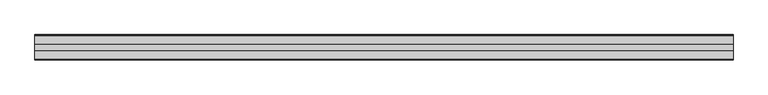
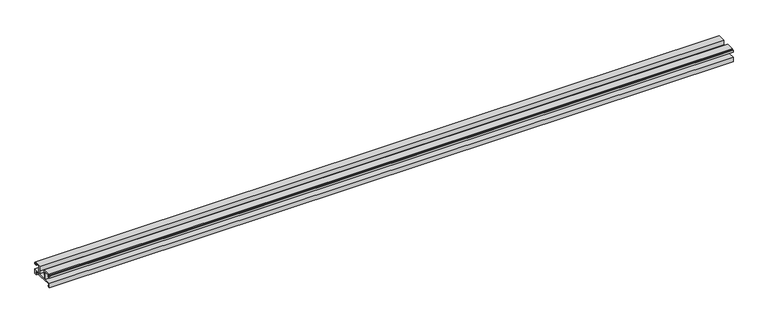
"""IFC4 building model written with IfcOpenShell, lengths in millimetres: proxy geometry, Weiku - Montante - Acoplamento vidro : Weiku - Montante - Acoplamento vidro."""

from ifc_helpers import new_model, si_unit, frame, origin, place, context, project, spatial, polyline, outline, extrude, source, transform, mapped, element, save


def generic_models_13534959(model_context):
    return source(origin(), model_context, "Body", "SweptSolid", [
        extrude(outline(polyline([(-35.405, 5.1494), (-35.405, 6.8004), (-45.741, 6.8004), (-45.741, 2.6094), (-43.8784, 2.6094), (-43.8784, 0.0), (-47.9014508, 0.0), (-47.9014508, 8.79), (-34.946, 8.79), (-34.946, 23.3104), (-43.5397, 23.3104), (-43.5397, 19.204), (-47.9, 19.204), (-47.9, 22.8024), (-46.9264, 22.8024), (-46.9264, 20.3894), (-44.725, 20.3894), (-44.725, 23.9454), (-45.5264504, 23.9454), (-45.5264504, 25.3), (-30.4164, 25.3), (-30.4164, 16.283), (-32.4484, 16.283), (-32.4484, 8.8), (-15.4516, 8.8), (-15.4516, 16.283), (-17.4836, 16.283), (-17.4836, 25.3), (-2.3735496, 25.3), (-2.3735496, 23.9454), (-3.175, 23.9454), (-3.175, 20.3894), (-0.9736, 20.3894), (-0.9736, 22.8024), (0.0, 22.8024), (0.0, 19.204), (-4.3603, 19.204), (-4.3603, 23.3104), (-12.954, 23.3104), (-12.954, 8.79), (0.0014508, 8.79), (0.0014508, 0.0), (-4.0216, 0.0), (-4.0216, 2.6094), (-2.159, 2.6094), (-2.159, 6.8004), (-12.495, 6.8004), (-12.495, 5.1494), (-35.405, 5.1494)])), frame((-655.6833333, 0.0, 0.0), z_axis=(1.0, 0.0, 0.0), x_axis=(0.0, 1.0, 0.0)), (0.0, 0.0, 1.0), 1311.3666667),
    ])


if __name__ == "__main__":
    model = new_model("IFC4")
    model_context = context("Model", 3, world=origin())
    ifc_project = project(units=[si_unit("LENGTHUNIT", "METRE", prefix="MILLI")], contexts=[model_context])
    site = spatial("IfcSite", under=ifc_project)
    building = spatial("IfcBuilding", under=site)
    placement = place(None, origin())
    generic_models_shape = generic_models_13534959(model_context)
    element("IfcBuildingElementProxy", 1, Name="Weiku - Montante - Acoplamento vidro : Weiku - Montante - Acoplamento vidro", ObjectType="Weiku - Montante - Acoplamento vidro : Weiku - Montante - Acoplamento vidro", at=placement, inside=building, context=model_context, shape_type="MappedRepresentation", body=[
        mapped(generic_models_shape, transform((0.0, 0.0, 0.0), x_axis=(1.0, 0.0, 0.0), y_axis=(0.0, 1.0, 0.0), z_axis=(0.0, 0.0, 1.0))),
    ])
    save(model, "model.ifc")
